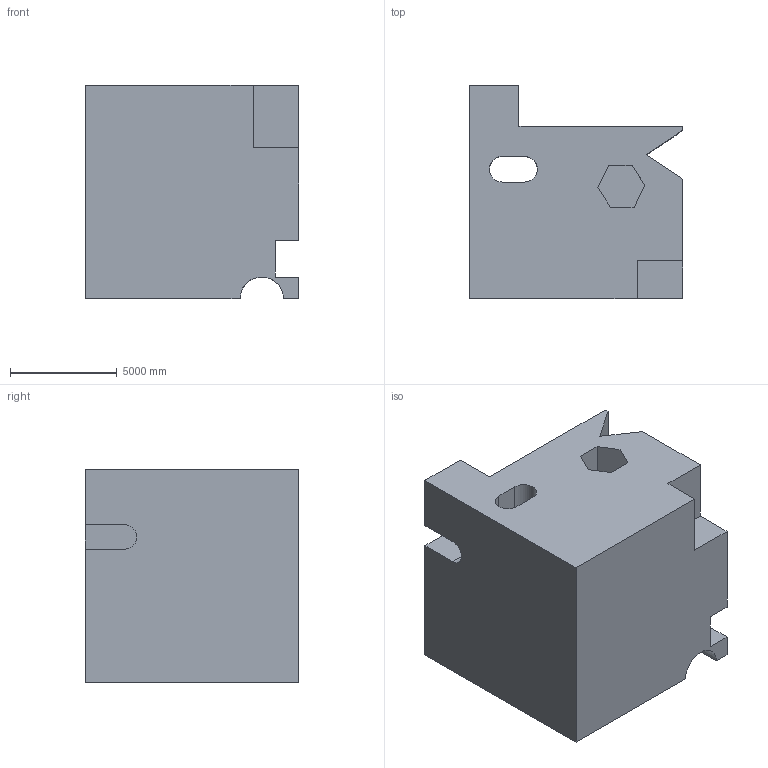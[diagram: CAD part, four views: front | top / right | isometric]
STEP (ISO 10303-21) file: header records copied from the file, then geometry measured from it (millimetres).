
FILE_DESCRIPTION (( 'STEP AP203' ), '1' );
FILE_NAME ('779.STEP', '2022-07-29T13:09:16', ( 'user' ), ( '' ), 'SwSTEP 2.0', 'SolidWorks 2021', '' );
FILE_SCHEMA (( 'CONFIG_CONTROL_DESIGN' ));
Length unit declared in the file: centimetre
Products named in the file (1): 779
Bounding box: 10000 x 10000 x 10000 mm (x, y, z)
Volume: 734703697524.9 mm3; surface area: 679267918.2 mm2
Topology: 1 solids, 1 shells, 40 faces, 111 edges, 74 vertices
Faces by surface type: plane 35, cylinder 5
Entity records: 1345 total; most frequent: CARTESIAN_POINT 235, ORIENTED_EDGE 222, DIRECTION 199, EDGE_CURVE 111, LINE 99, VECTOR 99, VERTEX_POINT 74, AXIS2_PLACEMENT_3D 50
